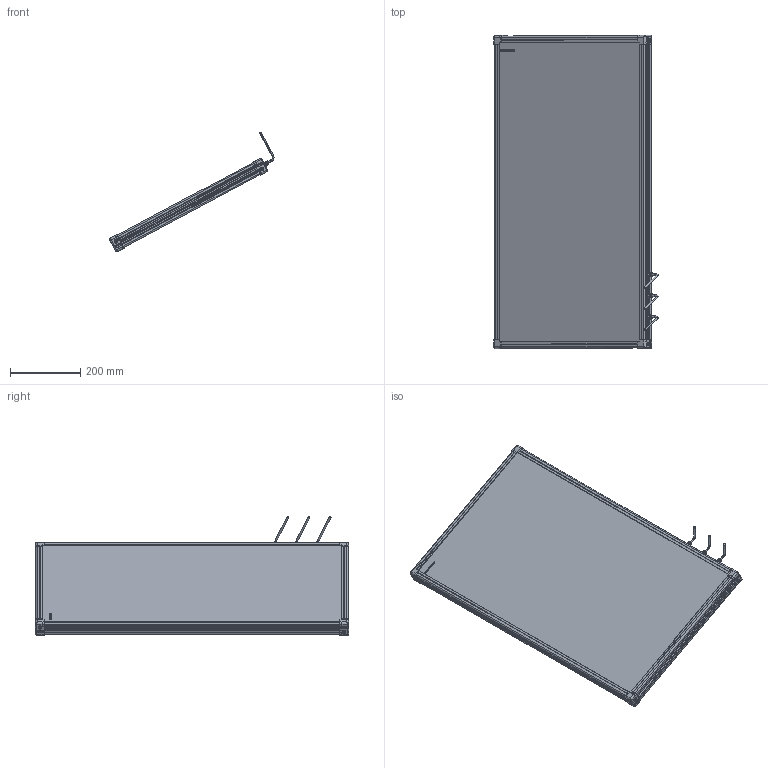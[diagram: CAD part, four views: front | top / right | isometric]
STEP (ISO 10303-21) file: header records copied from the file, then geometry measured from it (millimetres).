
FILE_DESCRIPTION (( 'STEP AP214' ), '1' );
FILE_NAME ('EFFI-BL-450-850-ZZZ 3xM12.STEP', '2021-06-18T13:17:49', ( '' ), ( '' ), 'SwSTEP 2.0', 'SolidWorks 2021', '' );
FILE_SCHEMA (( 'AUTOMOTIVE_DESIGN' ));
Length unit declared in the file: millimetre
Products named in the file (9): petite joue + vis; petite joue; EFFI-BL-450-850-ZZZ 3xM12; profile X_PERCE; profile Y_PERCE; Pièce13^EFFI-BL-XXX-YYY-ZZZ -3M12; cordon_Avec cable; 000629
Assembly tree (15 placements, depth 3):
  EFFI-BL-450-850-ZZZ 3xM12
    profile X_PERCE  x2
    profile Y_PERCE
    profile Y_PERCE
    Pièce13^EFFI-BL-XXX-YYY-ZZZ -3M12
    petite joue + vis  x4
      petite joue
      000629
    cordon_Avec cable  x3
Bounding box: 466.19 x 889 x 337.64 mm (x, y, z)
Volume: 15145985.1 mm3; surface area: 1275013.6 mm2
Topology: 17 solids, 35 shells, 3755 faces, 10039 edges, 6637 vertices
Faces by surface type: plane 2470, cylinder 624, bspline 609, torus 30, cone 22
Entity records: 51051 total; most frequent: CARTESIAN_POINT 21838, ORIENTED_EDGE 6208, DIRECTION 4721, EDGE_CURVE 3108, VECTOR 2305, LINE 2305, VERTEX_POINT 2064, EDGE_LOOP 1260
